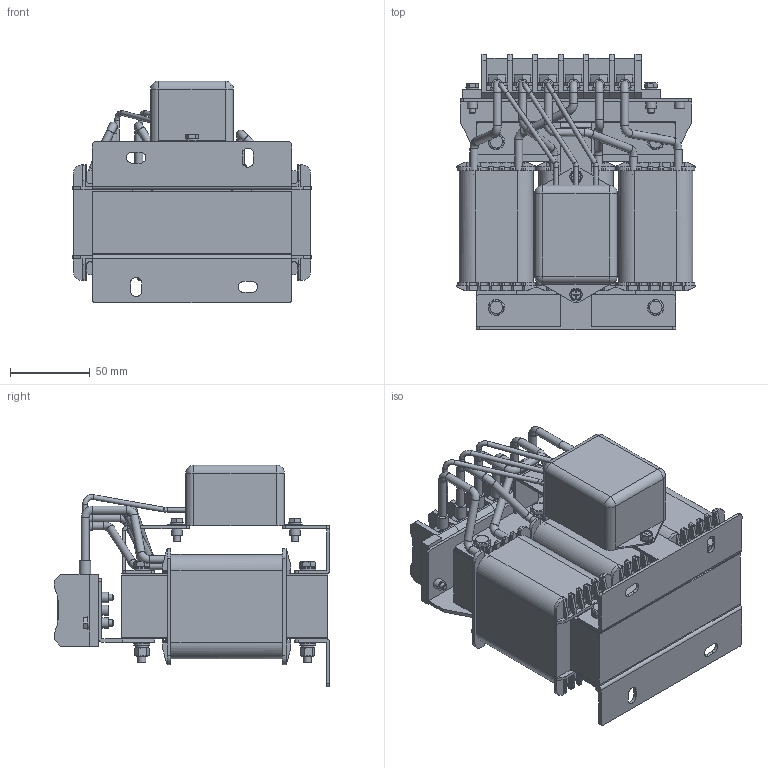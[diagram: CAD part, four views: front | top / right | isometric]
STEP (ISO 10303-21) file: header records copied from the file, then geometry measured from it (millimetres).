
FILE_DESCRIPTION(('STEP AP203'), '1');
FILE_NAME('IDUDT-15_40-4 _ dU_dt ôèëüòð 15 êÂò', '', ('UNSPECIFIED'), ('UNSPECIFIED'), 'C3D Converter', 'C3D Toolkit', '');
FILE_SCHEMA(('CONFIG_CONTROL_DESIGN'));
Length unit declared in the file: millimetre
Products named in the file (24): IDUDT-15/40-4
Assembly tree (51 placements, depth 3):
  IDUDT-15/40-4
    (unnamed)
    (unnamed)  x6
    (unnamed)
    (unnamed)
    (unnamed)
    (unnamed)
    (unnamed)
    (unnamed)  x6
      (unnamed)
      (unnamed)
      (unnamed)
    (unnamed)  x6
      (unnamed)
      (unnamed)
    (unnamed)  x3
    (unnamed)
    (unnamed)  x6
    (unnamed)  x2
      (unnamed)
      (unnamed)
    (unnamed)
    (unnamed)  x2
      (unnamed)
      (unnamed)
    (unnamed)
Bounding box: 150 x 173 x 139 mm (x, y, z)
Volume: 1201729.2 mm3; surface area: 370817.6 mm2
Topology: 124 solids, 124 shells, 2322 faces, 5906 edges, 3870 vertices
Faces by surface type: plane 1783, cylinder 462, cone 48, torus 25, sphere 4
Full cylindrical faces by diameter (mm): 3 x17, 4 x10, 4.134 x6, 4.333 x4, 5 x33, 5.4 x6, 5.5 x24, 5.8 x2, 6.5 x11, 7 x12, 7.2 x6, 8 x10, 9 x6, 10 x24, 11 x12, 12 x12
Entity records: 53693 total; most frequent: CARTESIAN_POINT 11763, ORIENTED_EDGE 5982, DIRECTION 5952, EDGE_CURVE 2991, LINE 2454, VECTOR 2454, VERTEX_POINT 2057, AXIS2_PLACEMENT_3D 1749
